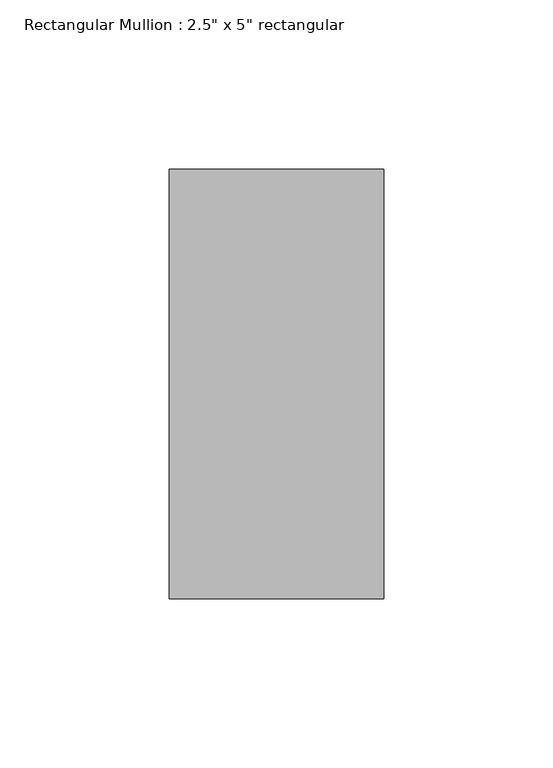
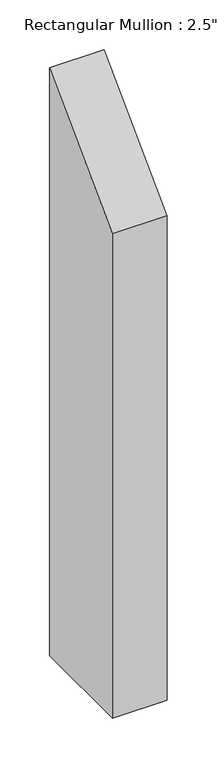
"""IFC4 building model written with IfcOpenShell, lengths in millimetres: member geometry."""

from ifc_helpers import new_model, si_unit, frame, origin, place, context, project, spatial, polyline, outline, extrude, source, transform, mapped, element, save


def member_1e5b0a81(model_context):
    return source(origin(), model_context, "Body", "SweptSolid", [
        extrude(outline(polyline([(-63.5, -63.5), (63.5, 63.5), (63.5, -658.9), (-63.5, -658.9), (-63.5, -63.5)])), frame((-63.5, 0.0, 0.0), z_axis=(1.0, 0.0, 0.0), x_axis=(0.0, 1.0, 0.0)), (0.0, 0.0, 1.0), 63.5),
    ])


if __name__ == "__main__":
    model = new_model("IFC4")
    model_context = context("Model", 3, world=origin())
    ifc_project = project(units=[si_unit("LENGTHUNIT", "METRE", prefix="MILLI")], contexts=[model_context])
    site = spatial("IfcSite", under=ifc_project)
    building = spatial("IfcBuilding", under=site)
    placement = place(None, origin())
    member_shape = member_1e5b0a81(model_context)
    element("IfcMember", 1, ObjectType="Rectangular Mullion : 2.5\" x 5\" rectangular", at=placement, inside=building, context=model_context, shape_type="MappedRepresentation", body=[
        mapped(member_shape, transform((0.0, 0.0, 0.0), x_axis=(1.0, 0.0, 0.0), y_axis=(0.0, 1.0, 0.0), z_axis=(0.0, 0.0, 1.0))),
    ])
    save(model, "model.ifc")
